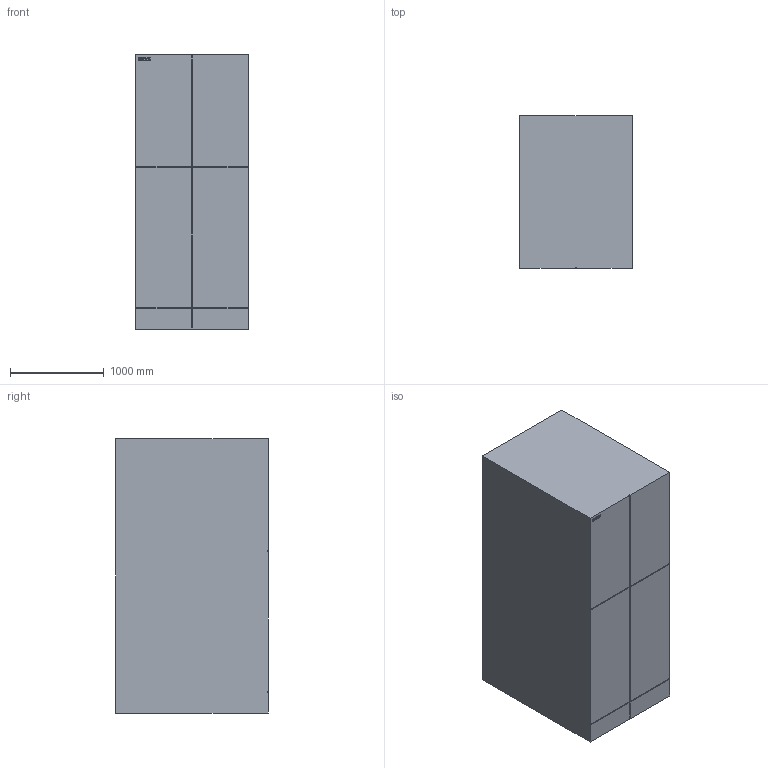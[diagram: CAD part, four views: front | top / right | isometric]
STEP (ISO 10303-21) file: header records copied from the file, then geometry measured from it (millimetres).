
FILE_DESCRIPTION(/* description */ (''),/* implementation_level */ '2;1');
FILE_NAME(/* name */ 'C:\ProgramData\Autodesk\RVT 2016\Libraries\Germany\__Siemens Entwicklung 8DA 8DB\DWG\Siemens_MV_switchgear_gas-insulated_8DA10_40_5kV - Double panel (bus sectionalizer) LV1200 with raised.stp',/* time_stamp */ '2018-03-14T11:56:05+01:00',/* author */ ('prange'),/* organization */ (''),/* preprocessor_version */ 'ST-DEVELOPER v16.1',/* originating_system */ 'AutoCAD Mechanical',/* authorisation */ '');
FILE_SCHEMA (('AUTOMOTIVE_DESIGN { 1 0 10303 214 3 1 1 }'));
Length unit declared in the file: millimetre
Products named in the file (2): 8DA - Basic - Test-568501-_3D_; Product
Assembly tree (1 placements, depth 2):
  Product
    8DA - Basic - Test-568501-_3D_
Bounding box: 1200 x 1626.5 x 2920 mm (x, y, z)
Volume: 5693473750 mm3; surface area: 20511712.8 mm2
Topology: 2 solids, 9 shells, 39 faces, 247 edges, 259 vertices
Faces by surface type: plane 39
Entity records: 2404 total; most frequent: CARTESIAN_POINT 548, DIRECTION 331, ORIENTED_EDGE 291, LINE 247, VECTOR 247, EDGE_CURVE 207, VERTEX_POINT 179, STYLED_ITEM 49
